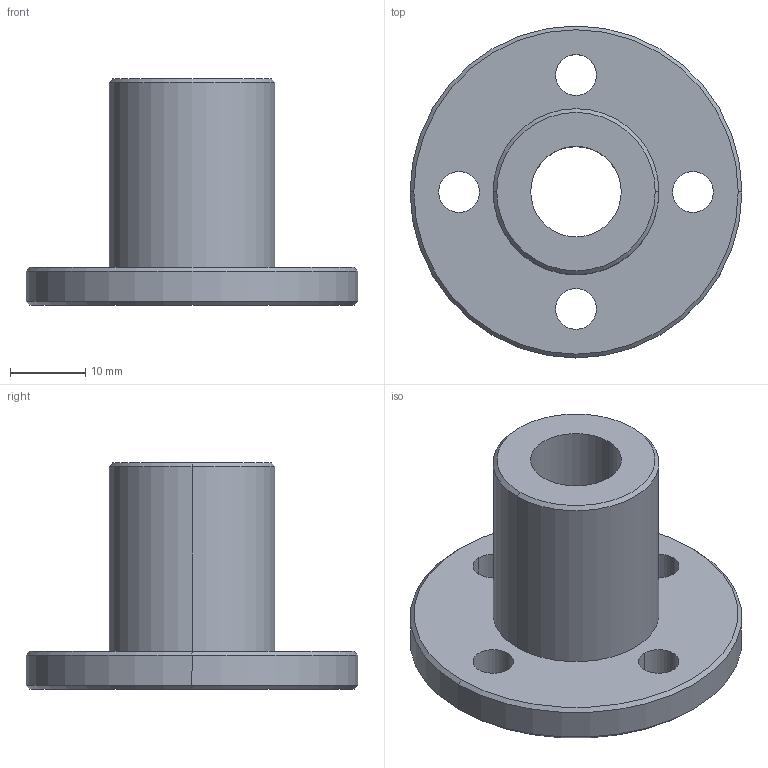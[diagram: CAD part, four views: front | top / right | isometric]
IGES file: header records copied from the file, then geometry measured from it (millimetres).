
Start section: 3D InterOp IGES (Version 21 0 1), Spatial Corp. Copyright (c) 1999-2007.
Global section: file name: TMFON-12R.igs; native system: Spatial Corp.; preprocessor: 3D InterOp GENERIC/IGES 3.0; author: Noname; organization: Noname; date: 20220208.144820; units: millimetre
Bounding box: 44 x 44 x 30 mm (x, y, z)
Surface area: 6418.7 mm2 (no closed solid volume)
Topology: 0 solids, 0 shells, 23 faces, 108 edges, 108 vertices
Faces by surface type: revolution 20, extrusion 3
